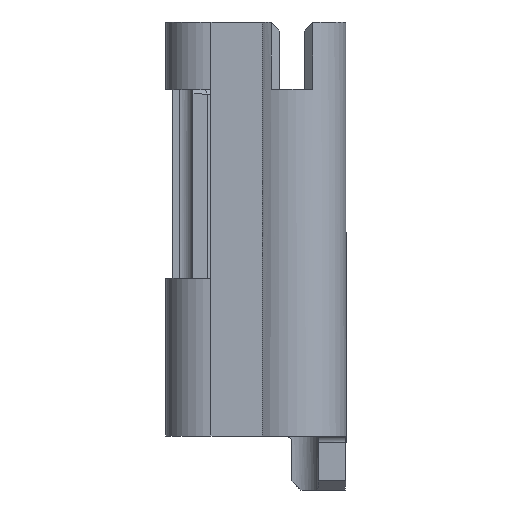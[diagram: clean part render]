
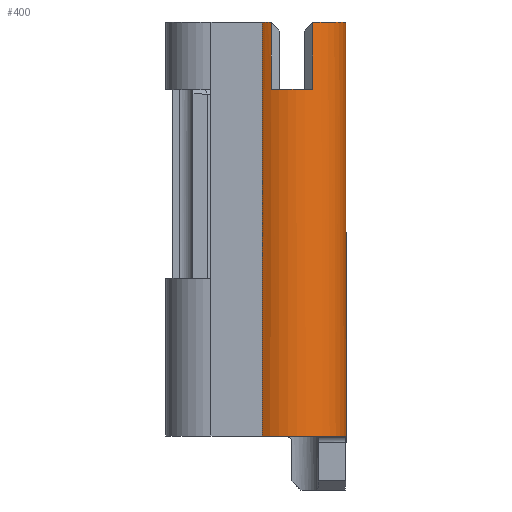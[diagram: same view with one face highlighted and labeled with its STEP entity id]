
A CAD part, front view. The second image highlights one B-rep face of the part: STEP entity #400.
In plain terms, the highlighted cylindrical face has radius 1.2 mm (diameter 2.4 mm), a partial arc.
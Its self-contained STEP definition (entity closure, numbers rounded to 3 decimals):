
#20 = VERTEX_POINT ( 'NONE', #1568 ) ;
#79 = ORIENTED_EDGE ( 'NONE', *, *, #2267, .F. ) ;
#100 = LINE ( 'NONE', #3197, #2204 ) ;
#147 = DIRECTION ( 'NONE',  ( 0., 0., 1. ) ) ;
#148 = DIRECTION ( 'NONE',  ( 1., 0., 0. ) ) ;
#203 = CARTESIAN_POINT ( 'NONE',  ( -0.47, -1.104, 1.5 ) ) ;
#266 = CARTESIAN_POINT ( 'NONE',  ( -0.663, -1., 1.5 ) ) ;
#298 = CARTESIAN_POINT ( 'NONE',  ( 1.191, -0.15, -7.7 ) ) ;
#326 = CARTESIAN_POINT ( 'NONE',  ( 1.199, -0.044, -7.743 ) ) ;
#365 = CARTESIAN_POINT ( 'NONE',  ( 1.2, -0.014, -7.784 ) ) ;
#400 = ADVANCED_FACE ( 'NONE', ( #1735 ), #1048, .T. ) ;
#413 = VECTOR ( 'NONE', #525, 1000. ) ;
#416 = CARTESIAN_POINT ( 'NONE',  ( 0., 0., -7.7 ) ) ;
#434 = DIRECTION ( 'NONE',  ( 0., 0., 1. ) ) ;
#440 = DIRECTION ( 'NONE',  ( 0., 0., 1. ) ) ;
#450 =( BOUNDED_CURVE ( )  B_SPLINE_CURVE ( 3, ( #2593, #2074, #536, #1841 ),
 .UNSPECIFIED., .F., .T. ) 
 B_SPLINE_CURVE_WITH_KNOTS ( ( 4, 4 ),
 ( 1.168, 1.178 ),
 .UNSPECIFIED. ) 
 CURVE ( )  GEOMETRIC_REPRESENTATION_ITEM ( )  RATIONAL_B_SPLINE_CURVE ( ( 1., 1., 1., 1. ) ) 
 REPRESENTATION_ITEM ( '' )  );
#519 = EDGE_CURVE ( 'NONE', #705, #2417, #1379, .T. ) ;
#525 = DIRECTION ( 'NONE',  ( 0., 0., 1. ) ) ;
#536 = CARTESIAN_POINT ( 'NONE',  ( 0.463, -1.107, 1.493 ) ) ;
#547 = AXIS2_PLACEMENT_3D ( 'NONE', #2198, #3210, #1168 ) ;
#578 = CARTESIAN_POINT ( 'NONE',  ( 1.2, 0., 1.5 ) ) ;
#585 = CARTESIAN_POINT ( 'NONE',  ( 1.191, -0.15, -7.7 ) ) ;
#591 = AXIS2_PLACEMENT_3D ( 'NONE', #713, #440, #2745 ) ;
#684 = CARTESIAN_POINT ( 'NONE',  ( 0., 0., 1.5 ) ) ;
#695 = CARTESIAN_POINT ( 'NONE',  ( -0.663, -1., -7.7 ) ) ;
#705 = VERTEX_POINT ( 'NONE', #1763 ) ;
#713 = CARTESIAN_POINT ( 'NONE',  ( 0., 0., -7.7 ) ) ;
#722 = EDGE_CURVE ( 'NONE', #3141, #1081, #1337, .T. ) ;
#746 = CARTESIAN_POINT ( 'NONE',  ( 1.2, 0., -7.85 ) ) ;
#765 = VERTEX_POINT ( 'NONE', #746 ) ;
#835 = CARTESIAN_POINT ( 'NONE',  ( 1.197, -0.085, -7.714 ) ) ;
#838 = CARTESIAN_POINT ( 'NONE',  ( 0.459, -1.109, 1.489 ) ) ;
#843 = CARTESIAN_POINT ( 'NONE',  ( 1.2, -0.032, -7.756 ) ) ;
#959 = VERTEX_POINT ( 'NONE', #298 ) ;
#1002 = ORIENTED_EDGE ( 'NONE', *, *, #1232, .T. ) ;
#1027 = VECTOR ( 'NONE', #147, 1000. ) ;
#1048 = CYLINDRICAL_SURFACE ( 'NONE', #591, 1.2 ) ;
#1060 = B_SPLINE_CURVE_WITH_KNOTS ( 'NONE', 3,
 ( #585, #1599, #1136, #3177, #835, #1904, #3188, #326, #843, #1384, #365, #1648, #3215, #1105, #2157, #1613 ),
 .UNSPECIFIED., .F., .F.,
 ( 4, 3, 3, 3, 3, 4 ),
 ( 0., 0., 0., 0., 0., 0. ),
 .UNSPECIFIED. ) ;
#1081 = VERTEX_POINT ( 'NONE', #578 ) ;
#1099 = AXIS2_PLACEMENT_3D ( 'NONE', #684, #434, #2008 ) ;
#1105 = CARTESIAN_POINT ( 'NONE',  ( 1.2, -0.001, -7.827 ) ) ;
#1136 = CARTESIAN_POINT ( 'NONE',  ( 1.194, -0.116, -7.703 ) ) ;
#1140 = EDGE_CURVE ( 'NONE', #765, #1081, #100, .T. ) ;
#1168 = DIRECTION ( 'NONE',  ( 1., 0., 0. ) ) ;
#1217 = CARTESIAN_POINT ( 'NONE',  ( 0., 0., 1.5 ) ) ;
#1232 = EDGE_CURVE ( 'NONE', #2342, #2192, #2040, .T. ) ;
#1337 = CIRCLE ( 'NONE', #1099, 1.2 ) ;
#1339 = CIRCLE ( 'NONE', #1618, 1.2 ) ;
#1356 = CARTESIAN_POINT ( 'NONE',  ( 0.47, -1.104, 1.5 ) ) ;
#1379 =( BOUNDED_CURVE ( )  B_SPLINE_CURVE ( 3, ( #2211, #2995, #1426, #3251 ),
 .UNSPECIFIED., .F., .T. ) 
 B_SPLINE_CURVE_WITH_KNOTS ( ( 4, 4 ),
 ( 5.105, 5.115 ),
 .UNSPECIFIED. ) 
 CURVE ( )  GEOMETRIC_REPRESENTATION_ITEM ( )  RATIONAL_B_SPLINE_CURVE ( ( 1., 1., 1., 1. ) ) 
 REPRESENTATION_ITEM ( '' )  );
#1384 = CARTESIAN_POINT ( 'NONE',  ( 1.2, -0.023, -7.77 ) ) ;
#1426 = CARTESIAN_POINT ( 'NONE',  ( -0.466, -1.106, 1.496 ) ) ;
#1485 = CARTESIAN_POINT ( 'NONE',  ( 0.459, -1.109, 0. ) ) ;
#1539 = EDGE_CURVE ( 'NONE', #3141, #3126, #450, .T. ) ;
#1542 = VECTOR ( 'NONE', #1549, 1000. ) ;
#1549 = DIRECTION ( 'NONE',  ( 0., 0., 1. ) ) ;
#1568 = CARTESIAN_POINT ( 'NONE',  ( -0.663, -1., -7.7 ) ) ;
#1599 = CARTESIAN_POINT ( 'NONE',  ( 1.193, -0.133, -7.7 ) ) ;
#1613 = CARTESIAN_POINT ( 'NONE',  ( 1.2, 0., -7.85 ) ) ;
#1618 = AXIS2_PLACEMENT_3D ( 'NONE', #1217, #3304, #2476 ) ;
#1622 = LINE ( 'NONE', #1854, #1542 ) ;
#1648 = CARTESIAN_POINT ( 'NONE',  ( 1.2, -0.008, -7.8 ) ) ;
#1735 = FACE_OUTER_BOUND ( 'NONE', #2559, .T. ) ;
#1763 = CARTESIAN_POINT ( 'NONE',  ( -0.459, -1.109, 1.489 ) ) ;
#1764 = ORIENTED_EDGE ( 'NONE', *, *, #1862, .F. ) ;
#1841 = CARTESIAN_POINT ( 'NONE',  ( 0.459, -1.109, 1.489 ) ) ;
#1854 = CARTESIAN_POINT ( 'NONE',  ( -0.459, -1.109, 0. ) ) ;
#1862 = EDGE_CURVE ( 'NONE', #2342, #3126, #1865, .T. ) ;
#1865 = LINE ( 'NONE', #3082, #413 ) ;
#1904 = CARTESIAN_POINT ( 'NONE',  ( 1.198, -0.07, -7.722 ) ) ;
#1908 = AXIS2_PLACEMENT_3D ( 'NONE', #416, #3239, #148 ) ;
#1919 = VERTEX_POINT ( 'NONE', #266 ) ;
#2008 = DIRECTION ( 'NONE',  ( 1., 0., 0. ) ) ;
#2040 = CIRCLE ( 'NONE', #547, 1.2 ) ;
#2048 = LINE ( 'NONE', #695, #1027 ) ;
#2074 = CARTESIAN_POINT ( 'NONE',  ( 0.466, -1.106, 1.496 ) ) ;
#2082 = EDGE_CURVE ( 'NONE', #2192, #705, #1622, .T. ) ;
#2157 = CARTESIAN_POINT ( 'NONE',  ( 1.2, 0., -7.839 ) ) ;
#2190 = ORIENTED_EDGE ( 'NONE', *, *, #1539, .T. ) ;
#2192 = VERTEX_POINT ( 'NONE', #2938 ) ;
#2198 = CARTESIAN_POINT ( 'NONE',  ( 0., 0., 0. ) ) ;
#2204 = VECTOR ( 'NONE', #3171, 1000. ) ;
#2211 = CARTESIAN_POINT ( 'NONE',  ( -0.459, -1.109, 1.489 ) ) ;
#2220 = EDGE_CURVE ( 'NONE', #959, #765, #1060, .T. ) ;
#2221 = ORIENTED_EDGE ( 'NONE', *, *, #519, .T. ) ;
#2267 = EDGE_CURVE ( 'NONE', #20, #1919, #2048, .T. ) ;
#2308 = EDGE_CURVE ( 'NONE', #1919, #2417, #1339, .T. ) ;
#2342 = VERTEX_POINT ( 'NONE', #1485 ) ;
#2417 = VERTEX_POINT ( 'NONE', #203 ) ;
#2472 = ORIENTED_EDGE ( 'NONE', *, *, #2596, .T. ) ;
#2476 = DIRECTION ( 'NONE',  ( 1., 0., 0. ) ) ;
#2503 = ORIENTED_EDGE ( 'NONE', *, *, #1140, .T. ) ;
#2559 = EDGE_LOOP ( 'NONE', ( #2715, #2503, #2851, #2190, #1764, #1002, #2952, #2221, #3190, #79, #2472 ) ) ;
#2593 = CARTESIAN_POINT ( 'NONE',  ( 0.47, -1.104, 1.5 ) ) ;
#2596 = EDGE_CURVE ( 'NONE', #20, #959, #2816, .T. ) ;
#2715 = ORIENTED_EDGE ( 'NONE', *, *, #2220, .T. ) ;
#2745 = DIRECTION ( 'NONE',  ( 1., 0., 0. ) ) ;
#2816 = CIRCLE ( 'NONE', #1908, 1.2 ) ;
#2851 = ORIENTED_EDGE ( 'NONE', *, *, #722, .F. ) ;
#2938 = CARTESIAN_POINT ( 'NONE',  ( -0.459, -1.109, 0. ) ) ;
#2952 = ORIENTED_EDGE ( 'NONE', *, *, #2082, .T. ) ;
#2995 = CARTESIAN_POINT ( 'NONE',  ( -0.463, -1.107, 1.493 ) ) ;
#3082 = CARTESIAN_POINT ( 'NONE',  ( 0.459, -1.109, 0. ) ) ;
#3126 = VERTEX_POINT ( 'NONE', #838 ) ;
#3141 = VERTEX_POINT ( 'NONE', #1356 ) ;
#3171 = DIRECTION ( 'NONE',  ( 0., 0., 1. ) ) ;
#3177 = CARTESIAN_POINT ( 'NONE',  ( 1.196, -0.101, -7.708 ) ) ;
#3188 = CARTESIAN_POINT ( 'NONE',  ( 1.199, -0.057, -7.733 ) ) ;
#3190 = ORIENTED_EDGE ( 'NONE', *, *, #2308, .F. ) ;
#3197 = CARTESIAN_POINT ( 'NONE',  ( 1.2, 0., -7.7 ) ) ;
#3210 = DIRECTION ( 'NONE',  ( 0., 0., -1. ) ) ;
#3215 = CARTESIAN_POINT ( 'NONE',  ( 1.2, -0.004, -7.816 ) ) ;
#3239 = DIRECTION ( 'NONE',  ( 0., 0., 1. ) ) ;
#3251 = CARTESIAN_POINT ( 'NONE',  ( -0.47, -1.104, 1.5 ) ) ;
#3304 = DIRECTION ( 'NONE',  ( 0., 0., 1. ) ) ;
